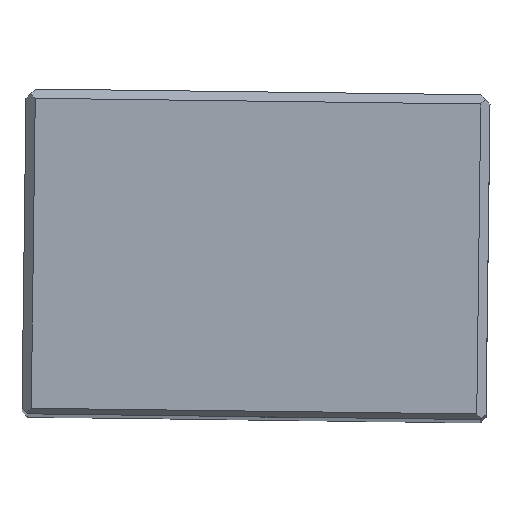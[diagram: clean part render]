
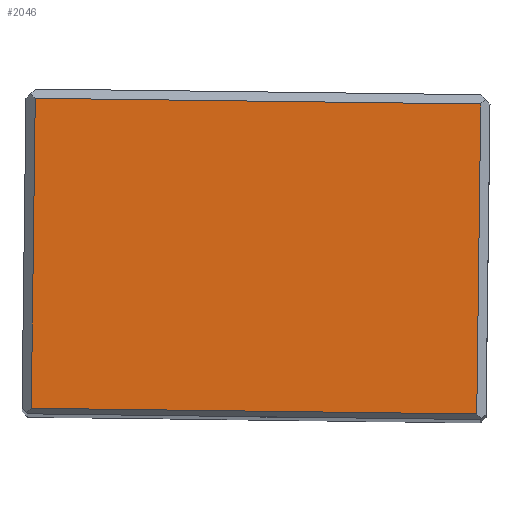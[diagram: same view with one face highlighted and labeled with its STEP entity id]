
A CAD part, top view. The second image highlights one B-rep face of the part: STEP entity #2046.
In plain terms, the highlighted planar face has unit normal (0, 0, 1).
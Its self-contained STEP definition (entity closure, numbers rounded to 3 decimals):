
#106=PLANE('',#2228);
#191=FACE_OUTER_BOUND('',#312,.T.);
#312=EDGE_LOOP('',(#1548,#1549,#1550,#1551));
#486=LINE('',#3211,#669);
#487=LINE('',#3213,#670);
#488=LINE('',#3215,#671);
#489=LINE('',#3216,#672);
#669=VECTOR('',#2612,10.);
#670=VECTOR('',#2613,10.);
#671=VECTOR('',#2614,10.);
#672=VECTOR('',#2615,10.);
#944=VERTEX_POINT('',#3209);
#945=VERTEX_POINT('',#3210);
#946=VERTEX_POINT('',#3212);
#947=VERTEX_POINT('',#3214);
#1165=EDGE_CURVE('',#944,#945,#486,.T.);
#1166=EDGE_CURVE('',#946,#944,#487,.T.);
#1167=EDGE_CURVE('',#947,#946,#488,.T.);
#1168=EDGE_CURVE('',#945,#947,#489,.T.);
#1548=ORIENTED_EDGE('',*,*,#1165,.F.);
#1549=ORIENTED_EDGE('',*,*,#1166,.F.);
#1550=ORIENTED_EDGE('',*,*,#1167,.F.);
#1551=ORIENTED_EDGE('',*,*,#1168,.F.);
#2046=ADVANCED_FACE('',(#191),#106,.T.);
#2228=AXIS2_PLACEMENT_3D('',#3208,#2610,#2611);
#2610=DIRECTION('center_axis',(0.,0.,
1.));
#2611=DIRECTION('ref_axis',(-1.,0.013,0.));
#2612=DIRECTION('',(-0.013,-1.,0.));
#2613=DIRECTION('',(1.,-0.013,0.));
#2614=DIRECTION('',(0.013,1.,0.));
#2615=DIRECTION('',(-1.,0.013,0.));
#3208=CARTESIAN_POINT('Origin',(33.779,-17.544,115.574));
#3209=CARTESIAN_POINT('',(33.273,-18.037,115.574));
#3210=CARTESIAN_POINT('',(33.059,-34.736,115.574));
#3211=CARTESIAN_POINT('',(33.279,-17.537,115.574));
#3212=CARTESIAN_POINT('',(9.275,-17.73,115.574));
#3213=CARTESIAN_POINT('',(27.523,-17.964,115.574));
#3214=CARTESIAN_POINT('',(9.061,-34.429,115.574));
#3215=CARTESIAN_POINT('',(9.281,-17.23,115.574));
#3216=CARTESIAN_POINT('',(27.309,-34.662,115.574));
